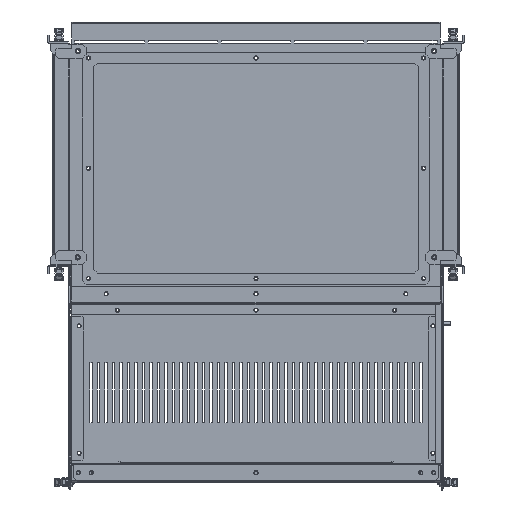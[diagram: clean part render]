
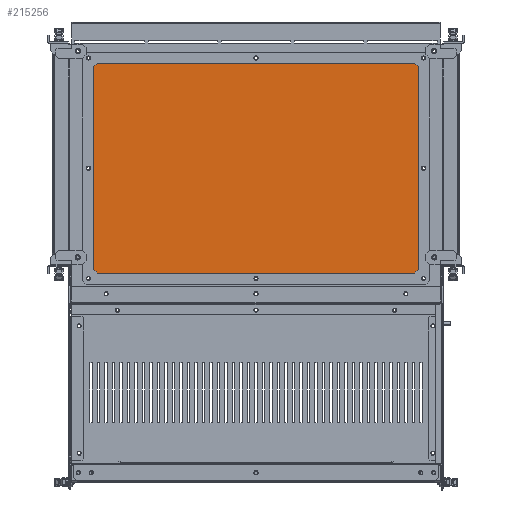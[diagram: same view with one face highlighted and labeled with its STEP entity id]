
A CAD part, top view. The second image highlights one B-rep face of the part: STEP entity #215256.
In plain terms, the highlighted planar face has unit normal (0, 0, 1).
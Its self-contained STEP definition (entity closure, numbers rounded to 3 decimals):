
#213101=CARTESIAN_POINT(' ',(-2.75,-147.,0.));
#213102=VERTEX_POINT(' ',#213101);
#213116=CARTESIAN_POINT(' ',(0.,-147.,0.));
#213121=DIRECTION(' ',(0.,-0.,1.));
#213126=DIRECTION(' ',(-1.,0.,0.));
#213131=AXIS2_PLACEMENT_3D(' ',#213116,#213121,#213126);
#213136=CIRCLE('',#213131,2.75);
#213141=CARTESIAN_POINT(' ',(2.75,-147.,0.));
#213142=VERTEX_POINT(' ',#213141);
#213146=EDGE_CURVE(' ',#213102,#213142,#213136,.T.);
#214241=CARTESIAN_POINT(' ',(0.,-147.,0.));
#214246=DIRECTION(' ',(0.,0.,1.));
#214251=DIRECTION(' ',(1.,0.,0.));
#214256=AXIS2_PLACEMENT_3D(' ',#214241,#214246,#214251);
#214261=CIRCLE('',#214256,2.75);
#214266=EDGE_CURVE(' ',#213142,#213102,#214261,.T.);
#214291=DIRECTION(' ',(-0.,-0.,1.));
#214296=CARTESIAN_POINT(' ',(231.5,-155.,0.));
#214301=DIRECTION(' ',(0.,1.,0.));
#214306=AXIS2_PLACEMENT_3D(' ',#214296,#214291,#214301);
#214311=PLANE('NONE',#214306);
#214316=CARTESIAN_POINT(' ',(226.5,155.,0.));
#214321=DIRECTION(' ',(-1.,0.,0.));
#214326=VECTOR(' ',#214321,1.);
#214331=LINE('',#214316,#214326);
#214336=CARTESIAN_POINT(' ',(226.5,155.,0.));
#214337=VERTEX_POINT(' ',#214336);
#214341=CARTESIAN_POINT(' ',(-226.5,155.,0.));
#214342=VERTEX_POINT(' ',#214341);
#214346=EDGE_CURVE(' ',#214337,#214342,#214331,.T.);
#214351=ORIENTED_EDGE(' ',*,*,#214346,.T.);
#214356=CARTESIAN_POINT(' ',(-226.5,155.,0.));
#214361=DIRECTION(' ',(-0.707,-0.707,0.));
#214366=VECTOR(' ',#214361,1.);
#214371=LINE('',#214356,#214366);
#214376=CARTESIAN_POINT(' ',(-231.5,150.,0.));
#214377=VERTEX_POINT(' ',#214376);
#214381=EDGE_CURVE(' ',#214342,#214377,#214371,.T.);
#214386=ORIENTED_EDGE(' ',*,*,#214381,.T.);
#214391=CARTESIAN_POINT(' ',(-231.5,150.,0.));
#214396=DIRECTION(' ',(0.,-1.,0.));
#214401=VECTOR(' ',#214396,1.);
#214406=LINE('',#214391,#214401);
#214411=CARTESIAN_POINT(' ',(-231.5,-150.,0.));
#214412=VERTEX_POINT(' ',#214411);
#214416=EDGE_CURVE(' ',#214377,#214412,#214406,.T.);
#214421=ORIENTED_EDGE(' ',*,*,#214416,.T.);
#214426=CARTESIAN_POINT(' ',(-231.5,-150.,0.));
#214431=DIRECTION(' ',(0.707,-0.707,0.));
#214436=VECTOR(' ',#214431,1.);
#214441=LINE('',#214426,#214436);
#214446=CARTESIAN_POINT(' ',(-226.5,-155.,0.));
#214447=VERTEX_POINT(' ',#214446);
#214451=EDGE_CURVE(' ',#214412,#214447,#214441,.T.);
#214456=ORIENTED_EDGE(' ',*,*,#214451,.T.);
#214461=CARTESIAN_POINT(' ',(-226.5,-155.,0.));
#214466=DIRECTION(' ',(1.,0.,0.));
#214471=VECTOR(' ',#214466,1.);
#214476=LINE('',#214461,#214471);
#214481=CARTESIAN_POINT(' ',(226.5,-155.,0.));
#214482=VERTEX_POINT(' ',#214481);
#214486=EDGE_CURVE(' ',#214447,#214482,#214476,.T.);
#214491=ORIENTED_EDGE(' ',*,*,#214486,.T.);
#214496=CARTESIAN_POINT(' ',(226.5,-155.,0.));
#214501=DIRECTION(' ',(0.707,0.707,0.));
#214506=VECTOR(' ',#214501,1.);
#214511=LINE('',#214496,#214506);
#214516=CARTESIAN_POINT(' ',(231.5,-150.,0.));
#214517=VERTEX_POINT(' ',#214516);
#214521=EDGE_CURVE(' ',#214482,#214517,#214511,.T.);
#214526=ORIENTED_EDGE(' ',*,*,#214521,.T.);
#214531=CARTESIAN_POINT(' ',(231.5,-150.,0.));
#214536=DIRECTION(' ',(0.,1.,0.));
#214541=VECTOR(' ',#214536,1.);
#214546=LINE('',#214531,#214541);
#214551=CARTESIAN_POINT(' ',(231.5,150.,0.));
#214552=VERTEX_POINT(' ',#214551);
#214556=EDGE_CURVE(' ',#214517,#214552,#214546,.T.);
#214561=ORIENTED_EDGE(' ',*,*,#214556,.T.);
#214566=CARTESIAN_POINT(' ',(231.5,150.,0.));
#214571=DIRECTION(' ',(-0.707,0.707,0.));
#214576=VECTOR(' ',#214571,1.);
#214581=LINE('',#214566,#214576);
#214586=EDGE_CURVE(' ',#214552,#214337,#214581,.T.);
#214591=ORIENTED_EDGE(' ',*,*,#214586,.T.);
#214596=EDGE_LOOP(' ',(#214351,#214386,#214421,#214456,#214491,#214526,#214561,#214591));
#214601=FACE_OUTER_BOUND(' ',#214596,.T.);
#214606=ORIENTED_EDGE(' ',*,*,#214266,.F.);
#214611=ORIENTED_EDGE(' ',*,*,#213146,.F.);
#214616=EDGE_LOOP(' ',(#214606,#214611));
#214621=FACE_BOUND(' ',#214616,.T.);
#214626=CARTESIAN_POINT(' ',(-223.5,0.,0.));
#214631=DIRECTION(' ',(0.,0.,1.));
#214636=DIRECTION(' ',(1.,0.,0.));
#214641=AXIS2_PLACEMENT_3D(' ',#214626,#214631,#214636);
#214646=CIRCLE('',#214641,2.75);
#214651=CARTESIAN_POINT(' ',(-220.75,0.,0.));
#214652=VERTEX_POINT(' ',#214651);
#214656=CARTESIAN_POINT(' ',(-226.25,0.,0.));
#214657=VERTEX_POINT(' ',#214656);
#214661=EDGE_CURVE(' ',#214652,#214657,#214646,.T.);
#214666=ORIENTED_EDGE(' ',*,*,#214661,.F.);
#214671=CARTESIAN_POINT(' ',(-223.5,0.,0.));
#214676=DIRECTION(' ',(0.,-0.,1.));
#214681=DIRECTION(' ',(-1.,0.,0.));
#214686=AXIS2_PLACEMENT_3D(' ',#214671,#214676,#214681);
#214691=CIRCLE('',#214686,2.75);
#214696=EDGE_CURVE(' ',#214657,#214652,#214691,.T.);
#214701=ORIENTED_EDGE(' ',*,*,#214696,.F.);
#214706=EDGE_LOOP(' ',(#214666,#214701));
#214711=FACE_BOUND(' ',#214706,.T.);
#214716=CARTESIAN_POINT(' ',(-223.5,-147.,0.));
#214721=DIRECTION(' ',(0.,0.,1.));
#214726=DIRECTION(' ',(1.,0.,0.));
#214731=AXIS2_PLACEMENT_3D(' ',#214716,#214721,#214726);
#214736=CIRCLE('',#214731,2.75);
#214741=CARTESIAN_POINT(' ',(-220.75,-147.,0.));
#214742=VERTEX_POINT(' ',#214741);
#214746=CARTESIAN_POINT(' ',(-226.25,-147.,0.));
#214747=VERTEX_POINT(' ',#214746);
#214751=EDGE_CURVE(' ',#214742,#214747,#214736,.T.);
#214756=ORIENTED_EDGE(' ',*,*,#214751,.F.);
#214761=CARTESIAN_POINT(' ',(-223.5,-147.,0.));
#214766=DIRECTION(' ',(0.,-0.,1.));
#214771=DIRECTION(' ',(-1.,0.,0.));
#214776=AXIS2_PLACEMENT_3D(' ',#214761,#214766,#214771);
#214781=CIRCLE('',#214776,2.75);
#214786=EDGE_CURVE(' ',#214747,#214742,#214781,.T.);
#214791=ORIENTED_EDGE(' ',*,*,#214786,.F.);
#214796=EDGE_LOOP(' ',(#214756,#214791));
#214801=FACE_BOUND(' ',#214796,.T.);
#214806=CARTESIAN_POINT(' ',(223.5,-147.,0.));
#214811=DIRECTION(' ',(0.,0.,1.));
#214816=DIRECTION(' ',(1.,0.,0.));
#214821=AXIS2_PLACEMENT_3D(' ',#214806,#214811,#214816);
#214826=CIRCLE('',#214821,2.75);
#214831=CARTESIAN_POINT(' ',(226.25,-147.,0.));
#214832=VERTEX_POINT(' ',#214831);
#214836=CARTESIAN_POINT(' ',(220.75,-147.,0.));
#214837=VERTEX_POINT(' ',#214836);
#214841=EDGE_CURVE(' ',#214832,#214837,#214826,.T.);
#214846=ORIENTED_EDGE(' ',*,*,#214841,.F.);
#214851=CARTESIAN_POINT(' ',(223.5,-147.,0.));
#214856=DIRECTION(' ',(0.,-0.,1.));
#214861=DIRECTION(' ',(-1.,0.,0.));
#214866=AXIS2_PLACEMENT_3D(' ',#214851,#214856,#214861);
#214871=CIRCLE('',#214866,2.75);
#214876=EDGE_CURVE(' ',#214837,#214832,#214871,.T.);
#214881=ORIENTED_EDGE(' ',*,*,#214876,.F.);
#214886=EDGE_LOOP(' ',(#214846,#214881));
#214891=FACE_BOUND(' ',#214886,.T.);
#214896=CARTESIAN_POINT(' ',(223.5,147.,0.));
#214901=DIRECTION(' ',(0.,0.,1.));
#214906=DIRECTION(' ',(1.,0.,0.));
#214911=AXIS2_PLACEMENT_3D(' ',#214896,#214901,#214906);
#214916=CIRCLE('',#214911,2.75);
#214921=CARTESIAN_POINT(' ',(226.25,147.,0.));
#214922=VERTEX_POINT(' ',#214921);
#214926=CARTESIAN_POINT(' ',(220.75,147.,0.));
#214927=VERTEX_POINT(' ',#214926);
#214931=EDGE_CURVE(' ',#214922,#214927,#214916,.T.);
#214936=ORIENTED_EDGE(' ',*,*,#214931,.F.);
#214941=CARTESIAN_POINT(' ',(223.5,147.,0.));
#214946=DIRECTION(' ',(0.,-0.,1.));
#214951=DIRECTION(' ',(-1.,0.,0.));
#214956=AXIS2_PLACEMENT_3D(' ',#214941,#214946,#214951);
#214961=CIRCLE('',#214956,2.75);
#214966=EDGE_CURVE(' ',#214927,#214922,#214961,.T.);
#214971=ORIENTED_EDGE(' ',*,*,#214966,.F.);
#214976=EDGE_LOOP(' ',(#214936,#214971));
#214981=FACE_BOUND(' ',#214976,.T.);
#214986=CARTESIAN_POINT(' ',(0.,147.,0.));
#214991=DIRECTION(' ',(0.,0.,1.));
#214996=DIRECTION(' ',(1.,0.,0.));
#215001=AXIS2_PLACEMENT_3D(' ',#214986,#214991,#214996);
#215006=CIRCLE('',#215001,2.75);
#215011=CARTESIAN_POINT(' ',(2.75,147.,0.));
#215012=VERTEX_POINT(' ',#215011);
#215016=CARTESIAN_POINT(' ',(-2.75,147.,0.));
#215017=VERTEX_POINT(' ',#215016);
#215021=EDGE_CURVE(' ',#215012,#215017,#215006,.T.);
#215026=ORIENTED_EDGE(' ',*,*,#215021,.F.);
#215031=CARTESIAN_POINT(' ',(0.,147.,0.));
#215036=DIRECTION(' ',(0.,-0.,1.));
#215041=DIRECTION(' ',(-1.,0.,0.));
#215046=AXIS2_PLACEMENT_3D(' ',#215031,#215036,#215041);
#215051=CIRCLE('',#215046,2.75);
#215056=EDGE_CURVE(' ',#215017,#215012,#215051,.T.);
#215061=ORIENTED_EDGE(' ',*,*,#215056,.F.);
#215066=EDGE_LOOP(' ',(#215026,#215061));
#215071=FACE_BOUND(' ',#215066,.T.);
#215076=CARTESIAN_POINT(' ',(-223.5,147.,0.));
#215081=DIRECTION(' ',(0.,0.,1.));
#215086=DIRECTION(' ',(1.,0.,0.));
#215091=AXIS2_PLACEMENT_3D(' ',#215076,#215081,#215086);
#215096=CIRCLE('',#215091,2.75);
#215101=CARTESIAN_POINT(' ',(-220.75,147.,0.));
#215102=VERTEX_POINT(' ',#215101);
#215106=CARTESIAN_POINT(' ',(-226.25,147.,0.));
#215107=VERTEX_POINT(' ',#215106);
#215111=EDGE_CURVE(' ',#215102,#215107,#215096,.T.);
#215116=ORIENTED_EDGE(' ',*,*,#215111,.F.);
#215121=CARTESIAN_POINT(' ',(-223.5,147.,0.));
#215126=DIRECTION(' ',(0.,-0.,1.));
#215131=DIRECTION(' ',(-1.,0.,0.));
#215136=AXIS2_PLACEMENT_3D(' ',#215121,#215126,#215131);
#215141=CIRCLE('',#215136,2.75);
#215146=EDGE_CURVE(' ',#215107,#215102,#215141,.T.);
#215151=ORIENTED_EDGE(' ',*,*,#215146,.F.);
#215156=EDGE_LOOP(' ',(#215116,#215151));
#215161=FACE_BOUND(' ',#215156,.T.);
#215166=CARTESIAN_POINT(' ',(223.5,0.,0.));
#215171=DIRECTION(' ',(0.,0.,1.));
#215176=DIRECTION(' ',(1.,0.,0.));
#215181=AXIS2_PLACEMENT_3D(' ',#215166,#215171,#215176);
#215186=CIRCLE('',#215181,2.75);
#215191=CARTESIAN_POINT(' ',(226.25,0.,0.));
#215192=VERTEX_POINT(' ',#215191);
#215196=CARTESIAN_POINT(' ',(220.75,0.,0.));
#215197=VERTEX_POINT(' ',#215196);
#215201=EDGE_CURVE(' ',#215192,#215197,#215186,.T.);
#215206=ORIENTED_EDGE(' ',*,*,#215201,.F.);
#215211=CARTESIAN_POINT(' ',(223.5,0.,0.));
#215216=DIRECTION(' ',(0.,-0.,1.));
#215221=DIRECTION(' ',(-1.,0.,0.));
#215226=AXIS2_PLACEMENT_3D(' ',#215211,#215216,#215221);
#215231=CIRCLE('',#215226,2.75);
#215236=EDGE_CURVE(' ',#215197,#215192,#215231,.T.);
#215241=ORIENTED_EDGE(' ',*,*,#215236,.F.);
#215246=EDGE_LOOP(' ',(#215206,#215241));
#215251=FACE_BOUND(' ',#215246,.T.);
#215256=ADVANCED_FACE('NONE',(#214601,#214621,#214711,#214801,#214891,#214981,#215071,#215161,#215251),#214311,.T.);
